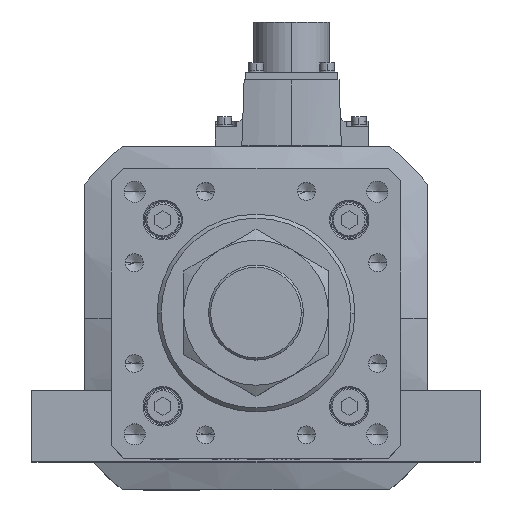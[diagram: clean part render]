
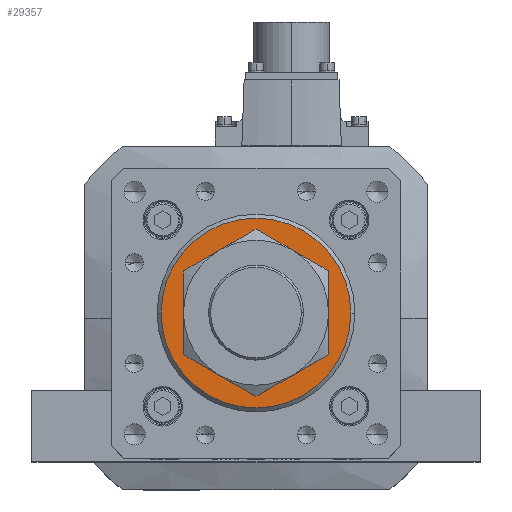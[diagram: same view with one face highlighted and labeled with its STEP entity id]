
A CAD part, top view. The second image highlights one B-rep face of the part: STEP entity #29357.
In plain terms, the highlighted planar face has unit normal (0, 0, 1).
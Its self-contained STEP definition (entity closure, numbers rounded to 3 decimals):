
#1349 = CARTESIAN_POINT ( 'NONE',  ( 36., 0., 846. ) ) ;
#1574 = AXIS2_PLACEMENT_3D ( 'NONE', #15630, #18737, #36395 ) ;
#2163 = DIRECTION ( 'NONE',  ( 0., 0., 1. ) ) ;
#2433 = DIRECTION ( 'NONE',  ( 1., 0., 0. ) ) ;
#2987 = EDGE_CURVE ( 'NONE', #18410, #23216, #18675, .T. ) ;
#3128 = EDGE_CURVE ( 'NONE', #29577, #9458, #12630, .T. ) ;
#3299 = ORIENTED_EDGE ( 'NONE', *, *, #3128, .T. ) ;
#3338 = ORIENTED_EDGE ( 'NONE', *, *, #13235, .T. ) ;
#6277 = AXIS2_PLACEMENT_3D ( 'NONE', #32335, #2163, #2433 ) ;
#6984 = FACE_BOUND ( 'NONE', #27105, .T. ) ;
#7143 = DIRECTION ( 'NONE',  ( 0., 0., 1. ) ) ;
#7419 = CIRCLE ( 'NONE', #1574, 23. ) ;
#9458 = VERTEX_POINT ( 'NONE', #22760 ) ;
#12322 = CARTESIAN_POINT ( 'NONE',  ( 0., 0., 846. ) ) ;
#12630 = CIRCLE ( 'NONE', #30079, 23. ) ;
#13235 = EDGE_CURVE ( 'NONE', #23216, #18410, #19281, .T. ) ;
#15037 = CARTESIAN_POINT ( 'NONE',  ( 0., 0., 846. ) ) ;
#15114 = CARTESIAN_POINT ( 'NONE',  ( -36., 0., 846. ) ) ;
#15566 = DIRECTION ( 'NONE',  ( 0., 0., 1. ) ) ;
#15630 = CARTESIAN_POINT ( 'NONE',  ( 0., 0., 846. ) ) ;
#15673 = CARTESIAN_POINT ( 'NONE',  ( 23., 0., 846. ) ) ;
#17524 = PLANE ( 'NONE',  #6277 ) ;
#18410 = VERTEX_POINT ( 'NONE', #1349 ) ;
#18675 = CIRCLE ( 'NONE', #32819, 36. ) ;
#18737 = DIRECTION ( 'NONE',  ( 0., 0., -1. ) ) ;
#18960 = CARTESIAN_POINT ( 'NONE',  ( 0., 0., 846. ) ) ;
#19281 = CIRCLE ( 'NONE', #28991, 36. ) ;
#20997 = DIRECTION ( 'NONE',  ( 1., 0., 0. ) ) ;
#22760 = CARTESIAN_POINT ( 'NONE',  ( -23., 0., 846. ) ) ;
#23216 = VERTEX_POINT ( 'NONE', #15114 ) ;
#23351 = EDGE_CURVE ( 'NONE', #9458, #29577, #7419, .T. ) ;
#24069 = DIRECTION ( 'NONE',  ( 0., 0., -1. ) ) ;
#24601 = FACE_OUTER_BOUND ( 'NONE', #34234, .T. ) ;
#25258 = DIRECTION ( 'NONE',  ( 1., 0., 0. ) ) ;
#27105 = EDGE_LOOP ( 'NONE', ( #3299, #29055 ) ) ;
#28707 = ORIENTED_EDGE ( 'NONE', *, *, #2987, .T. ) ;
#28991 = AXIS2_PLACEMENT_3D ( 'NONE', #18960, #7143, #25258 ) ;
#29055 = ORIENTED_EDGE ( 'NONE', *, *, #23351, .T. ) ;
#29357 = ADVANCED_FACE ( 'NONE', ( #6984, #24601 ), #17524, .T. ) ;
#29577 = VERTEX_POINT ( 'NONE', #15673 ) ;
#30079 = AXIS2_PLACEMENT_3D ( 'NONE', #15037, #24069, #20997 ) ;
#32335 = CARTESIAN_POINT ( 'NONE',  ( 0., 0., 846. ) ) ;
#32819 = AXIS2_PLACEMENT_3D ( 'NONE', #12322, #15566, #33002 ) ;
#33002 = DIRECTION ( 'NONE',  ( 1., 0., 0. ) ) ;
#34234 = EDGE_LOOP ( 'NONE', ( #3338, #28707 ) ) ;
#36395 = DIRECTION ( 'NONE',  ( 1., 0., 0. ) ) ;
